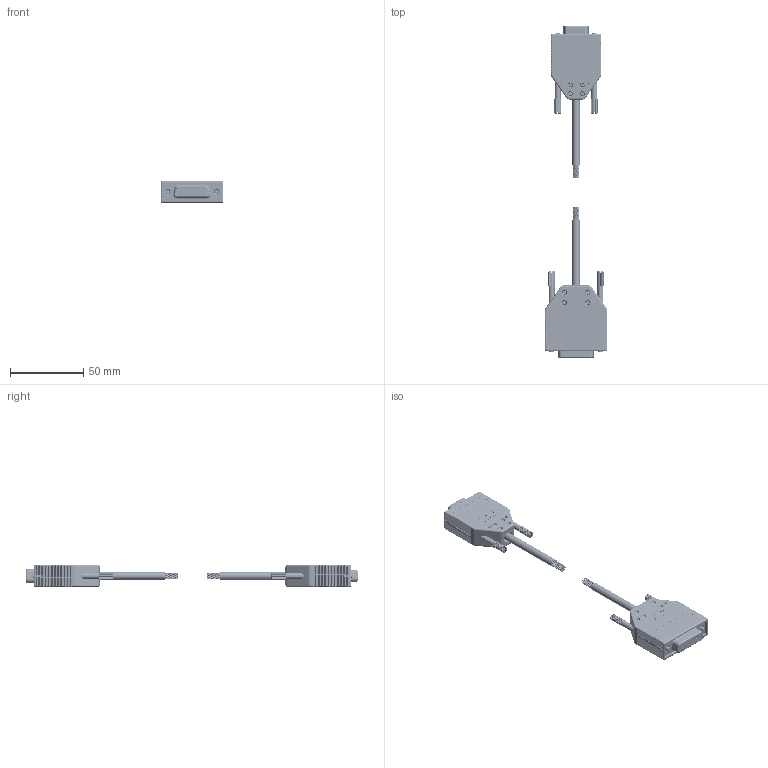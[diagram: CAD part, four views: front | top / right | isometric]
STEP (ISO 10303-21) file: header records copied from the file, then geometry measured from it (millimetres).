
FILE_DESCRIPTION (( 'STEP AP203' ), '1' );
FILE_NAME ('124Y269.STEP', '2023-11-10T13:58:44', ( '' ), ( '' ), 'SwSTEP 2.0', 'SolidWorks 2020', '' );
FILE_SCHEMA (( 'CONFIG_CONTROL_DESIGN' ));
Products named in the file (1): 124Y269
Bounding box: 42.7 x 226.85 x 14.7 mm (x, y, z)
Volume: 25287 mm3; surface area: 41582.5 mm2
Topology: 71 solids, 71 shells, 5175 faces, 13503 edges, 8543 vertices
Faces by surface type: plane 2516, cylinder 1400, bspline 912, cone 165, torus 158, sphere 24
Entity records: 254476 total; most frequent: CARTESIAN_POINT 137186, ORIENTED_EDGE 26918, DIRECTION 20556, EDGE_CURVE 13459, VERTEX_POINT 8545, AXIS2_PLACEMENT_3D 6978, LINE 6600, VECTOR 6600
